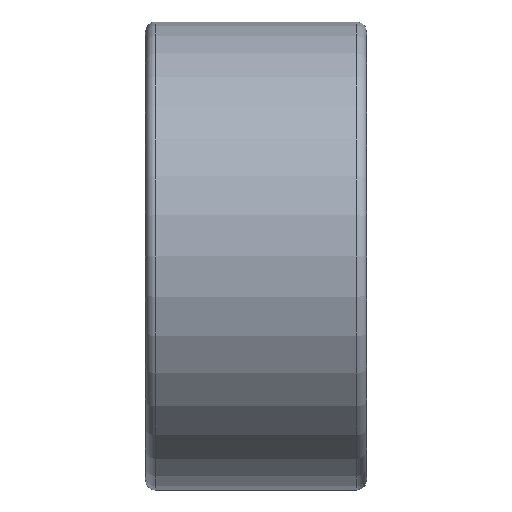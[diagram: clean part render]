
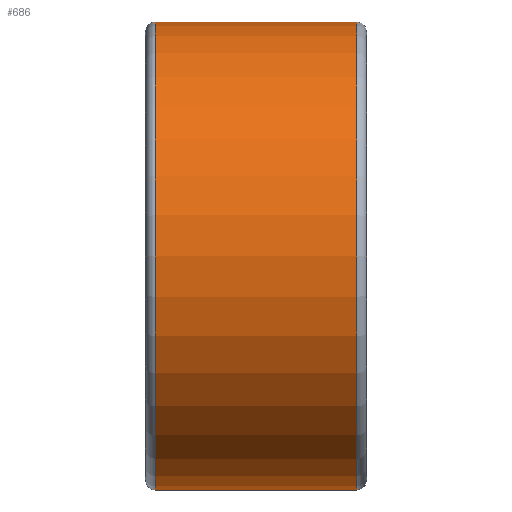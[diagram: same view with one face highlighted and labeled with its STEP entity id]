
A CAD part, front view. The second image highlights one B-rep face of the part: STEP entity #686.
In plain terms, the highlighted cylindrical face has radius 23.5 mm (diameter 47 mm), a full revolution.
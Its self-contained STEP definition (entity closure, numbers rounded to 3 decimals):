
#175=FACE_BOUND($,#282,.T.);
#216=FACE_OUTER_BOUND($,#281,.T.);
#281=EDGE_LOOP($,(#625));
#282=EDGE_LOOP($,(#626));
#346=CIRCLE($,#795,23.5);
#347=CIRCLE($,#797,23.5);
#406=VERTEX_POINT($,#1729);
#407=VERTEX_POINT($,#1732);
#481=EDGE_CURVE($,#406,#406,#346,.T.);
#482=EDGE_CURVE($,#407,#407,#347,.T.);
#625=ORIENTED_EDGE($,*,*,#481,.T.);
#626=ORIENTED_EDGE($,*,*,#482,.F.);
#645=CYLINDRICAL_SURFACE($,#796,23.5);
#686=ADVANCED_FACE($,(#216,#175),#645,.T.);
#795=AXIS2_PLACEMENT_3D($,#1730,#1018,#1019);
#796=AXIS2_PLACEMENT_3D($,#1731,#1020,#1021);
#797=AXIS2_PLACEMENT_3D($,#1733,#1022,#1023);
#1018=DIRECTION('center_axis',(1.,0.,0.));
#1019=DIRECTION('ref_axis',(0.,0.,-1.));
#1020=DIRECTION('center_axis',(1.,0.,0.));
#1021=DIRECTION('ref_axis',(0.,1.,0.));
#1022=DIRECTION('center_axis',(1.,0.,0.));
#1023=DIRECTION('ref_axis',(0.,0.,-1.));
#1729=CARTESIAN_POINT('',(-10.1,23.5,0.));
#1730=CARTESIAN_POINT('Origin',(-10.1,0.,0.));
#1731=CARTESIAN_POINT('Origin',(0.,0.,0.));
#1732=CARTESIAN_POINT('',(10.1,23.5,0.));
#1733=CARTESIAN_POINT('Origin',(10.1,0.,0.));
